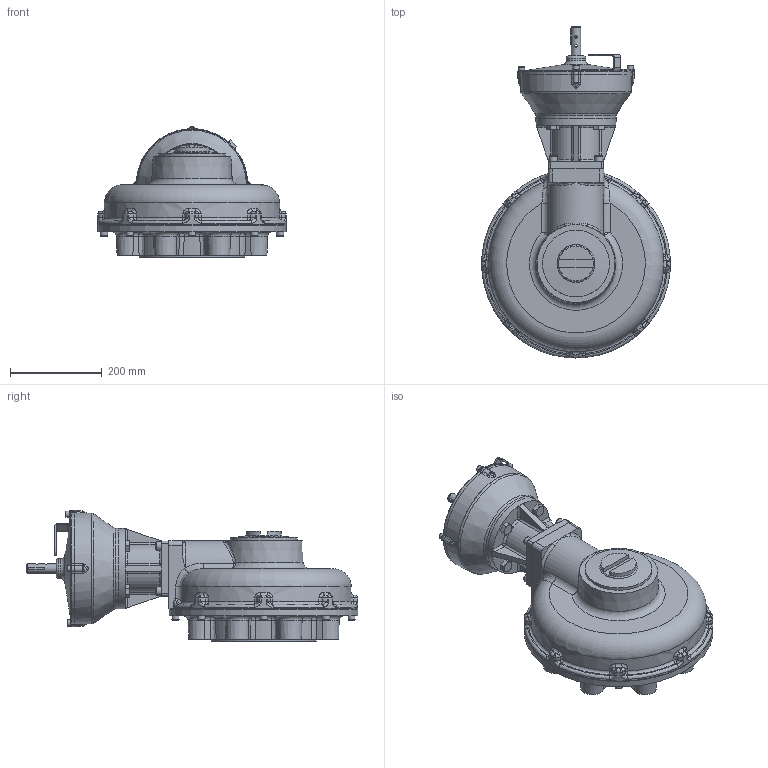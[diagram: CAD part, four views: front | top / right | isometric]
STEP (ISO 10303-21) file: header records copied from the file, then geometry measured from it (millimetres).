
FILE_DESCRIPTION( ( 'Unknown' ), '1' );
FILE_NAME( 'X:/CURRENT/PUB/Hob/HOB-2014/HOB-MPR/HOB-MPR-STP_FILES/PUB-HOB10MPR10-40.5-PAD-F30.stp', 'Unknown', ( 'Unknown' ), ( 'Unknown' ), 'PSStep 16.0.42', 'Unknown', ' ' );
FILE_SCHEMA( ( 'AUTOMOTIVE_DESIGN { 1 0 10303 214 1 1 1 1 }' ) );
Length unit declared in the file: millimetre
Products named in the file (33): 1; 2; 3; 4; 5; 6; 7; 8; 9; 10; 11; 12; 13; 14; 15; 16; 17; 18; 19; 20; 21; 22; 23; trelleborg_trea00200-n7mm_b5c67wtxxcj74kwnwb2box077_01; 24; 25; 26; 27; 28; 29; 30; 31; 32
Bounding box: 412 x 724.98 x 286.53 mm (x, y, z)
Surface area: 1789034.6 mm2 (no closed solid volume)
Topology: 0 solids, 3360 shells, 3360 faces, 17247 edges, 16780 vertices
Faces by surface type: cylinder 1149, plane 929, cone 604, bspline 290, torus 268, sphere 120
Full cylindrical faces by diameter (mm): 6 x2, 6.647 x8, 8 x4, 8.25 x2, 8.5 x12, 10 x8, 10.2 x4, 10.5 x8, 12 x4, 12.5 x4, 13.27 x4, 13.835 x8, 16 x12, 16.5 x4, 17.294 x16, 18 x4, 19 x1, 20 x2, 20.5 x2, 22.098 x1, 23 x1, 25 x1, 29.5 x1, 29.583 x1, 30 x3, 50 x2, 55.115 x1, 66.675 x1, 90 x2, 94 x1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
Entity records: 264076 total; most frequent: CARTESIAN_POINT 112461, DIRECTION 27106, VERTEX_POINT 16632, ORIENTED_EDGE 16600, EDGE_CURVE 16600, AXIS2_PLACEMENT_3D 10523, CIRCLE 7380, LINE 6060
